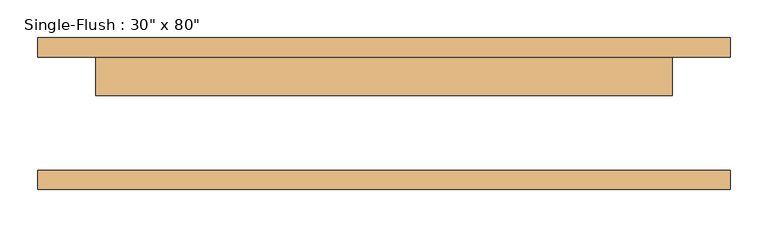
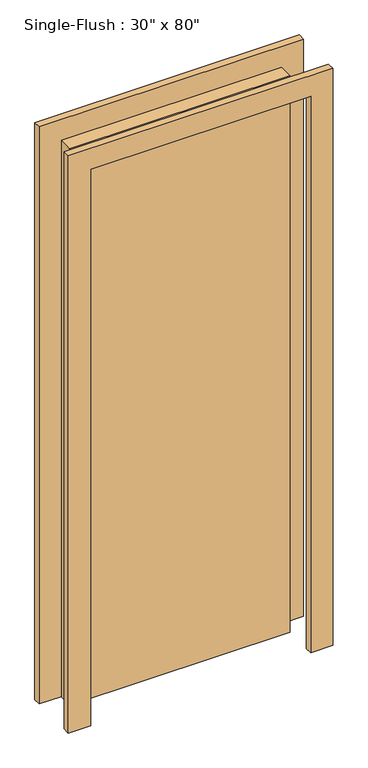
"""IFC4 building model written with IfcOpenShell, lengths in millimetres: door geometry."""

from ifc_helpers import new_model, si_unit, frame, origin, origin_with_axes, place, context, project, spatial, polyline, outline, extrude, source, transform, mapped, element, save


def door_8eef53e9(model_context):
    return source(origin(), model_context, "Body", "SweptSolid", [
        extrude(outline(polyline([(2108.2, -457.2), (0.0, -457.2), (0.0, -381.0), (2032.0, -381.0), (2032.0, 381.0), (0.0, 381.0), (0.0, 457.2), (2108.2, 457.2), (2108.2, -457.2)])), frame((0.0, 75.0, 0.0), z_axis=(0.0, 1.0, 0.0), x_axis=(0.0, 0.0, 1.0)), (0.0, 0.0, 1.0), 25.4),
        extrude(outline(polyline([(2108.2, 457.2), (2108.2, -457.2), (0.0, -457.2), (0.0, -381.0), (2032.0, -381.0), (2032.0, 381.0), (0.0, 381.0), (0.0, 457.2), (2108.2, 457.2)])), frame((0.0, -100.4, 0.0), z_axis=(0.0, 1.0, 0.0), x_axis=(0.0, 0.0, 1.0)), (0.0, 0.0, 1.0), 25.4),
        extrude(outline(polyline([(381.0, 24.2), (-381.0, 24.2), (-381.0, 75.0), (381.0, 75.0), (381.0, 24.2)])), origin_with_axes(), (0.0, 0.0, 1.0), 2032.0),
    ])


if __name__ == "__main__":
    model = new_model("IFC4")
    model_context = context("Model", 3, world=origin())
    ifc_project = project(units=[si_unit("LENGTHUNIT", "METRE", prefix="MILLI")], contexts=[model_context])
    site = spatial("IfcSite", under=ifc_project)
    building = spatial("IfcBuilding", under=site)
    placement = place(None, origin())
    door_shape = door_8eef53e9(model_context)
    element("IfcDoor", 1, ObjectType="Single-Flush : 30\" x 80\"", at=placement, inside=building, context=model_context, shape_type="MappedRepresentation", body=[
        mapped(door_shape, transform((0.0, 0.0, 0.0), x_axis=(1.0, 0.0, 0.0), y_axis=(0.0, 1.0, 0.0), z_axis=(0.0, 0.0, 1.0))),
    ])
    save(model, "model.ifc")
